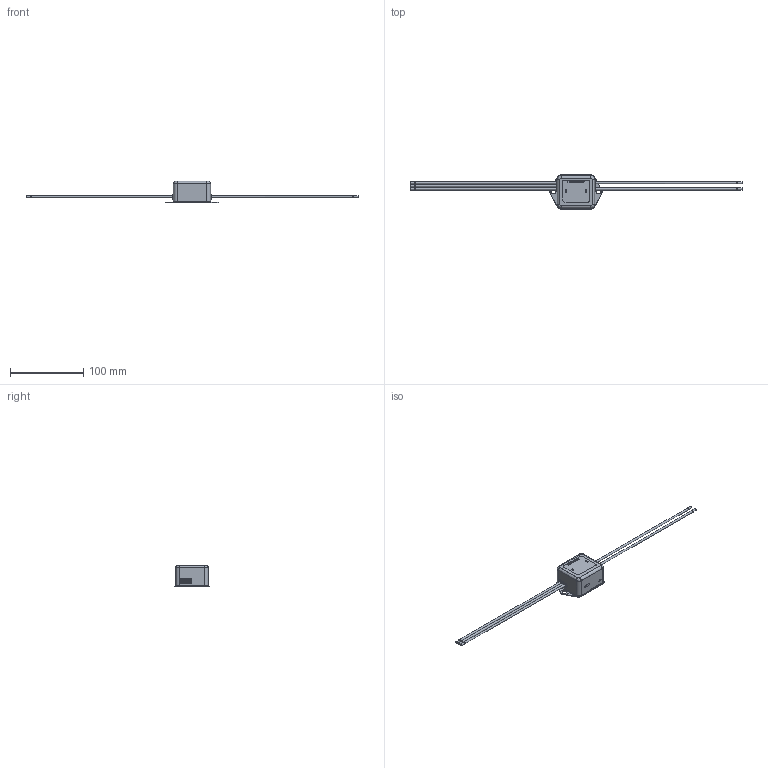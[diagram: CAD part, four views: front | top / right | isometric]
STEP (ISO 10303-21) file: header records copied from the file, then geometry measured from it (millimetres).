
FILE_DESCRIPTION(/* description */ ('naming raw material'),/* implementation_level */ '2;1');
FILE_NAME(/* name */ 'C:\Users\Jittrapon.Maneerat\Desktop\FN2580-series.stp',/* time_stamp */ '2019-04-02T15:04:27+07:00',/* author */ ('Jittrapon.Maneerat'),/* organization */ ('Schaffner Thailand Ltd.'),/* preprocessor_version */ 'ST-DEVELOPER v16.5',/* originating_system */ 'Autodesk Inventor 2017',/* authorisation */ '');
FILE_SCHEMA (('AUTOMOTIVE_DESIGN { 1 0 10303 214 3 1 1 }'));
Length unit declared in the file: millimetre
Products named in the file (1): FN2580-series
Bounding box: 452.5 x 46.6 x 29.36 mm (x, y, z)
Volume: 10605.1 mm3; surface area: 29421.7 mm2
Topology: 1 solids, 2 shells, 488 faces, 1229 edges, 801 vertices
Faces by surface type: plane 288, cylinder 101, bspline 65, torus 25, cone 9
Full cylindrical faces by diameter (mm): 1.28 x10, 2.8 x15, 3.2 x1
Entity records: 16659 total; most frequent: CARTESIAN_POINT 4835, ORIENTED_EDGE 2352, DIRECTION 2142, EDGE_CURVE 1176, VERTEX_POINT 792, LINE 768, VECTOR 768, AXIS2_PLACEMENT_3D 687
